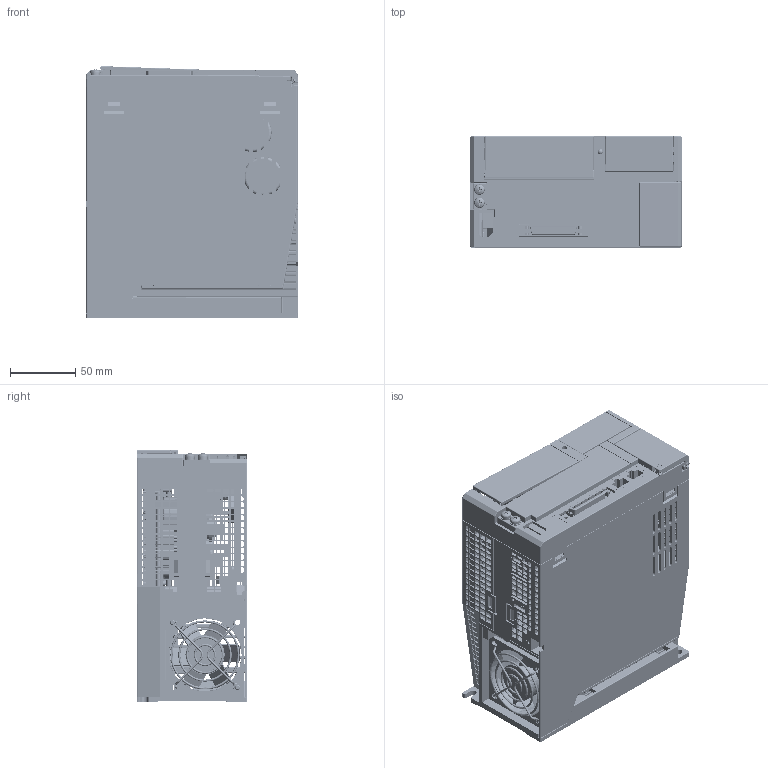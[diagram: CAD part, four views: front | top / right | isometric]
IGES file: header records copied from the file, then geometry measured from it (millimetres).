
Global section: file name: No Iges File Name specified; native system: AutoDesk Inventor R12.0; preprocessor: AutoDesk Inventor Iges Exporter R12.0; author: No Author specified; organization: No Organization specified; date: 20161012.140137; units: millimetre
Bounding box: 162 x 85 x 192.88 mm (x, y, z)
Volume: 935804.6 mm3; surface area: 656452.3 mm2
Topology: 115 solids, 122 shells, 12904 faces, 35071 edges, 22801 vertices
Faces by surface type: plane 9536, cylinder 1393, revolution 1310, bspline 245, torus 215, sphere 119, cone 86
